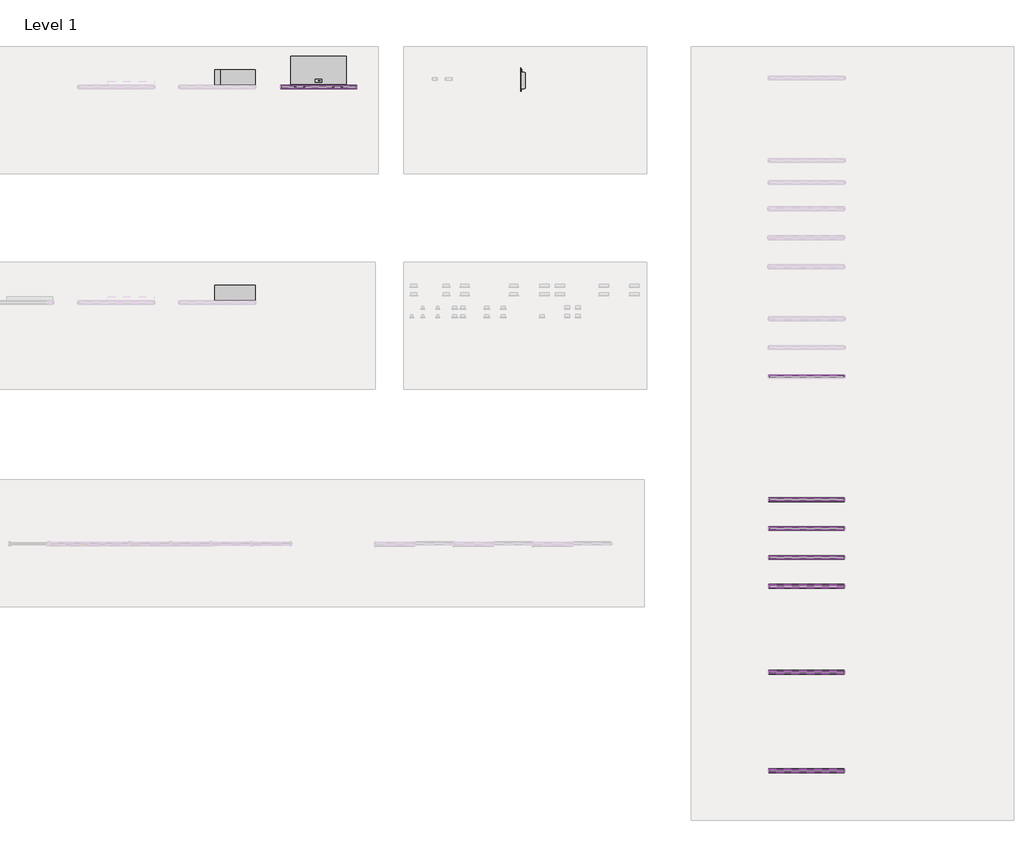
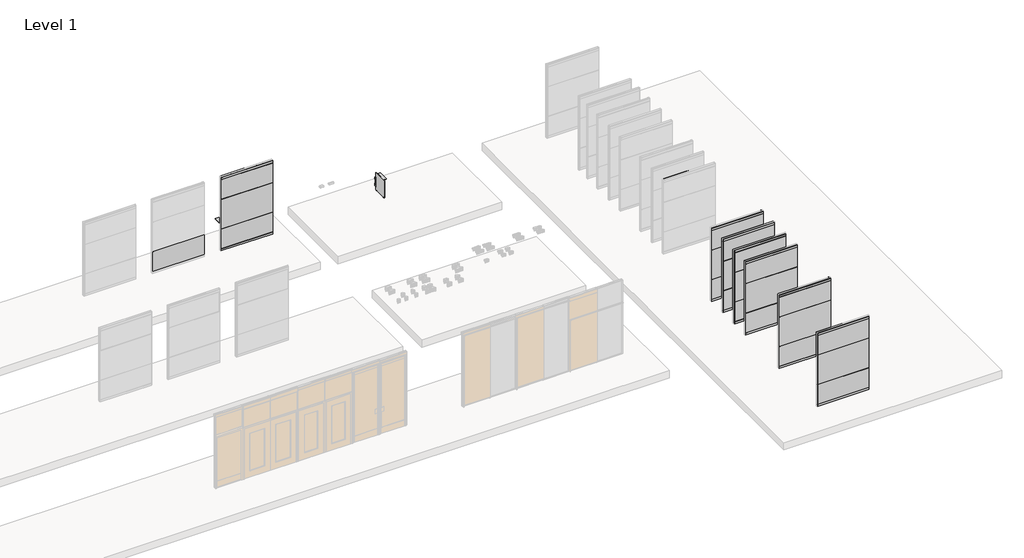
# One storey, part 9 of 13: 109 proxies, 6 furniture elements.
"""IFC4 building model written with IfcOpenShell, lengths in millimetres."""

from ifc_helpers import new_model, si_unit, origin, place, context, project, spatial, transform, mapped, element, save
from components import fascia_teknion_ceiling_and_base_ffb1_18eda79c, fascia_teknion_ceiling_and_base_ffb1_afe21305, frame_teknion_horizontal_rail_fkk_86cbbdfc, frame_teknion_landscape_vertical_post_b621eeab, level_i_45b542d7, level_i_5a75796b, level_i_a92b6f2e, level_ii_4f3a5f4c, level_ii_0c7391c9, level_iii_1ffc0a55, level_iii_bffd5232, furniture_96db114d, furniture_9f5f73cf, furniture_1d4756c6, furniture_db7c38db, furniture_d19da1b5

model = new_model("IFC4")

# Units and contexts
model_context = context("Model", 3, world=origin())
ifc_project = project(units=[si_unit("LENGTHUNIT", "METRE", prefix="MILLI")], contexts=[model_context])

# Site, building, storey
site = spatial("IfcSite", under=ifc_project)
building = spatial("IfcBuilding", under=site)
storey = spatial("IfcBuildingStorey", under=building, Name="Level 1", Elevation=0.0)

# Proxies
placement = place(None, origin())
fascia_teknion_ceiling_and_base_ffb1_shape = fascia_teknion_ceiling_and_base_ffb1_18eda79c(model_context)
element("IfcBuildingElementProxy", 1, Name="Fascia-Teknion-Ceiling_and_Base : FFB1", ObjectType="Fascia-Teknion-Ceiling_and_Base : FFB1", at=placement, inside=storey, context=model_context, shape_type="MappedRepresentation", body=[
    mapped(fascia_teknion_ceiling_and_base_ffb1_shape, transform((-5391.1661615, 22076.2689796, 15.875), x_axis=(1.0, 0.0, 0.0), y_axis=(0.0, 1.0, 0.0), z_axis=(0.0, 0.0, 1.0))),
])
element("IfcBuildingElementProxy", 2, Name="Fascia-Teknion-Ceiling_and_Base : FFB1", ObjectType="Fascia-Teknion-Ceiling_and_Base : FFB1", at=placement, inside=storey, context=model_context, shape_type="MappedRepresentation", body=[
    mapped(fascia_teknion_ceiling_and_base_ffb1_shape, transform((-5391.1661615, 22138.2449796, 15.875), x_axis=(-1.0, 0.0, 0.0), y_axis=(0.0, -1.0, 0.0), z_axis=(0.0, 0.0, 1.0))),
])
element("IfcBuildingElementProxy", 3, Name="Fascia-Teknion-Ceiling_and_Base : FFB1", ObjectType="Fascia-Teknion-Ceiling_and_Base : FFB1", at=placement, inside=storey, context=model_context, shape_type="MappedRepresentation", body=[
    mapped(fascia_teknion_ceiling_and_base_ffb1_shape, transform((7469.8447863, 11201.7742262, 15.875), x_axis=(1.0, 0.0, 0.0), y_axis=(0.0, 1.0, 0.0), z_axis=(0.0, 0.0, 1.0))),
])
element("IfcBuildingElementProxy", 4, Name="Fascia-Teknion-Ceiling_and_Base : FFB1", ObjectType="Fascia-Teknion-Ceiling_and_Base : FFB1", at=placement, inside=storey, context=model_context, shape_type="MappedRepresentation", body=[
    mapped(fascia_teknion_ceiling_and_base_ffb1_shape, transform((7469.8447863, 10439.7742262, 15.875), x_axis=(1.0, 0.0, 0.0), y_axis=(0.0, 1.0, 0.0), z_axis=(0.0, 0.0, 1.0))),
])
element("IfcBuildingElementProxy", 5, Name="Fascia-Teknion-Ceiling_and_Base : FFB1", ObjectType="Fascia-Teknion-Ceiling_and_Base : FFB1", at=placement, inside=storey, context=model_context, shape_type="MappedRepresentation", body=[
    mapped(fascia_teknion_ceiling_and_base_ffb1_shape, transform((7469.8447863, 9677.7742262, 15.875), x_axis=(1.0, 0.0, 0.0), y_axis=(0.0, 1.0, 0.0), z_axis=(0.0, 0.0, 1.0))),
])
element("IfcBuildingElementProxy", 6, Name="Fascia-Teknion-Ceiling_and_Base : FFB1", ObjectType="Fascia-Teknion-Ceiling_and_Base : FFB1", at=placement, inside=storey, context=model_context, shape_type="MappedRepresentation", body=[
    mapped(fascia_teknion_ceiling_and_base_ffb1_shape, transform((7469.8447863, 8915.7742262, 15.875), x_axis=(1.0, 0.0, 0.0), y_axis=(0.0, 1.0, 0.0), z_axis=(0.0, 0.0, 1.0))),
])
element("IfcBuildingElementProxy", 7, Name="Fascia-Teknion-Ceiling_and_Base : FFB1", ObjectType="Fascia-Teknion-Ceiling_and_Base : FFB1", at=placement, inside=storey, context=model_context, shape_type="MappedRepresentation", body=[
    mapped(fascia_teknion_ceiling_and_base_ffb1_shape, transform((7469.8447863, 6649.4734446, 15.875), x_axis=(1.0, 0.0, 0.0), y_axis=(0.0, 1.0, 0.0), z_axis=(0.0, 0.0, 1.0))),
])
element("IfcBuildingElementProxy", 8, Name="Fascia-Teknion-Ceiling_and_Base : FFB1", ObjectType="Fascia-Teknion-Ceiling_and_Base : FFB1", at=placement, inside=storey, context=model_context, shape_type="MappedRepresentation", body=[
    mapped(fascia_teknion_ceiling_and_base_ffb1_shape, transform((7469.8447863, 4056.2769609, 15.875), x_axis=(1.0, 0.0, 0.0), y_axis=(0.0, 1.0, 0.0), z_axis=(0.0, 0.0, 1.0))),
])
fascia_teknion_ceiling_and_base_ffb1_2_shape = fascia_teknion_ceiling_and_base_ffb1_afe21305(model_context)
element("IfcBuildingElementProxy", 9, Name="Fascia-Teknion-Ceiling_and_Base : FFB1", ObjectType="Fascia-Teknion-Ceiling_and_Base : FFB1", at=placement, inside=storey, context=model_context, shape_type="MappedRepresentation", body=[
    mapped(fascia_teknion_ceiling_and_base_ffb1_2_shape, transform((7469.8447863, 11263.7502262, 15.875), x_axis=(1.0, 0.0, 0.0), y_axis=(0.0, 1.0, 0.0), z_axis=(0.0, 0.0, 1.0))),
])
element("IfcBuildingElementProxy", 10, Name="Fascia-Teknion-Ceiling_and_Base : FFB1", ObjectType="Fascia-Teknion-Ceiling_and_Base : FFB1", at=placement, inside=storey, context=model_context, shape_type="MappedRepresentation", body=[
    mapped(fascia_teknion_ceiling_and_base_ffb1_2_shape, transform((7469.8447863, 10501.7502262, 15.875), x_axis=(1.0, 0.0, 0.0), y_axis=(0.0, 1.0, 0.0), z_axis=(0.0, 0.0, 1.0))),
])
element("IfcBuildingElementProxy", 11, Name="Fascia-Teknion-Ceiling_and_Base : FFB1", ObjectType="Fascia-Teknion-Ceiling_and_Base : FFB1", at=placement, inside=storey, context=model_context, shape_type="MappedRepresentation", body=[
    mapped(fascia_teknion_ceiling_and_base_ffb1_2_shape, transform((7469.8447863, 9739.7502262, 15.875), x_axis=(1.0, 0.0, 0.0), y_axis=(0.0, 1.0, 0.0), z_axis=(0.0, 0.0, 1.0))),
])
element("IfcBuildingElementProxy", 12, Name="Fascia-Teknion-Ceiling_and_Base : FFB1", ObjectType="Fascia-Teknion-Ceiling_and_Base : FFB1", at=placement, inside=storey, context=model_context, shape_type="MappedRepresentation", body=[
    mapped(fascia_teknion_ceiling_and_base_ffb1_2_shape, transform((7469.8447863, 8977.7502262, 15.875), x_axis=(1.0, 0.0, 0.0), y_axis=(0.0, 1.0, 0.0), z_axis=(0.0, 0.0, 1.0))),
])
element("IfcBuildingElementProxy", 13, Name="Fascia-Teknion-Ceiling_and_Base : FFB1", ObjectType="Fascia-Teknion-Ceiling_and_Base : FFB1", at=placement, inside=storey, context=model_context, shape_type="MappedRepresentation", body=[
    mapped(fascia_teknion_ceiling_and_base_ffb1_2_shape, transform((7469.8447863, 6711.4494446, 15.875), x_axis=(1.0, 0.0, 0.0), y_axis=(0.0, 1.0, 0.0), z_axis=(0.0, 0.0, 1.0))),
])
element("IfcBuildingElementProxy", 14, Name="Fascia-Teknion-Ceiling_and_Base : FFB1", ObjectType="Fascia-Teknion-Ceiling_and_Base : FFB1", at=placement, inside=storey, context=model_context, shape_type="MappedRepresentation", body=[
    mapped(fascia_teknion_ceiling_and_base_ffb1_2_shape, transform((7469.8447863, 4118.2529609, 15.875), x_axis=(1.0, 0.0, 0.0), y_axis=(0.0, 1.0, 0.0), z_axis=(0.0, 0.0, 1.0))),
])
element("IfcBuildingElementProxy", 15, Name="Fascia-Teknion-Ceiling_and_Base : FFC", ObjectType="Fascia-Teknion-Ceiling_and_Base : FFC", at=placement, inside=storey, context=model_context, shape_type="MappedRepresentation", body=[
    mapped(fascia_teknion_ceiling_and_base_ffb1_2_shape, transform((-5391.1661615, 22138.2449796, 2950.845), x_axis=(1.0, 0.0, 0.0), y_axis=(0.0, 1.0, 0.0), z_axis=(0.0, 0.0, 1.0))),
])
element("IfcBuildingElementProxy", 16, Name="Fascia-Teknion-Ceiling_and_Base : FFC", ObjectType="Fascia-Teknion-Ceiling_and_Base : FFC", at=placement, inside=storey, context=model_context, shape_type="MappedRepresentation", body=[
    mapped(fascia_teknion_ceiling_and_base_ffb1_2_shape, transform((7469.8447863, 14508.4566297, 2950.845), x_axis=(1.0, 0.0, 0.0), y_axis=(0.0, 1.0, 0.0), z_axis=(0.0, 0.0, 1.0))),
])
element("IfcBuildingElementProxy", 17, Name="Fascia-Teknion-Ceiling_and_Base : FFC", ObjectType="Fascia-Teknion-Ceiling_and_Base : FFC", at=placement, inside=storey, context=model_context, shape_type="MappedRepresentation", body=[
    mapped(fascia_teknion_ceiling_and_base_ffb1_2_shape, transform((7469.8447863, 11263.7502262, 2950.845), x_axis=(1.0, 0.0, 0.0), y_axis=(0.0, 1.0, 0.0), z_axis=(0.0, 0.0, 1.0))),
])
element("IfcBuildingElementProxy", 18, Name="Fascia-Teknion-Ceiling_and_Base : FFC", ObjectType="Fascia-Teknion-Ceiling_and_Base : FFC", at=placement, inside=storey, context=model_context, shape_type="MappedRepresentation", body=[
    mapped(fascia_teknion_ceiling_and_base_ffb1_2_shape, transform((7469.8447863, 10501.7502262, 2950.845), x_axis=(1.0, 0.0, 0.0), y_axis=(0.0, 1.0, 0.0), z_axis=(0.0, 0.0, 1.0))),
])
element("IfcBuildingElementProxy", 19, Name="Fascia-Teknion-Ceiling_and_Base : FFC", ObjectType="Fascia-Teknion-Ceiling_and_Base : FFC", at=placement, inside=storey, context=model_context, shape_type="MappedRepresentation", body=[
    mapped(fascia_teknion_ceiling_and_base_ffb1_2_shape, transform((7469.8447863, 9739.7502262, 2950.845), x_axis=(1.0, 0.0, 0.0), y_axis=(0.0, 1.0, 0.0), z_axis=(0.0, 0.0, 1.0))),
])
element("IfcBuildingElementProxy", 20, Name="Fascia-Teknion-Ceiling_and_Base : FFC", ObjectType="Fascia-Teknion-Ceiling_and_Base : FFC", at=placement, inside=storey, context=model_context, shape_type="MappedRepresentation", body=[
    mapped(fascia_teknion_ceiling_and_base_ffb1_2_shape, transform((7469.8447863, 8977.7502262, 2950.845), x_axis=(1.0, 0.0, 0.0), y_axis=(0.0, 1.0, 0.0), z_axis=(0.0, 0.0, 1.0))),
])
element("IfcBuildingElementProxy", 21, Name="Fascia-Teknion-Ceiling_and_Base : FFC", ObjectType="Fascia-Teknion-Ceiling_and_Base : FFC", at=placement, inside=storey, context=model_context, shape_type="MappedRepresentation", body=[
    mapped(fascia_teknion_ceiling_and_base_ffb1_2_shape, transform((7469.8447863, 6711.4494446, 2950.845), x_axis=(1.0, 0.0, 0.0), y_axis=(0.0, 1.0, 0.0), z_axis=(0.0, 0.0, 1.0))),
])
element("IfcBuildingElementProxy", 22, Name="Fascia-Teknion-Ceiling_and_Base : FFC", ObjectType="Fascia-Teknion-Ceiling_and_Base : FFC", at=placement, inside=storey, context=model_context, shape_type="MappedRepresentation", body=[
    mapped(fascia_teknion_ceiling_and_base_ffb1_2_shape, transform((7469.8447863, 4118.2529609, 2950.845), x_axis=(1.0, 0.0, 0.0), y_axis=(0.0, 1.0, 0.0), z_axis=(0.0, 0.0, 1.0))),
])
element("IfcBuildingElementProxy", 23, Name="Fascia-Teknion-Ceiling_and_Base : FFC", ObjectType="Fascia-Teknion-Ceiling_and_Base : FFC", at=placement, inside=storey, context=model_context, shape_type="MappedRepresentation", body=[
    mapped(fascia_teknion_ceiling_and_base_ffb1_shape, transform((-5391.1661615, 22076.2689796, 2950.845), x_axis=(1.0, 0.0, 0.0), y_axis=(0.0, 1.0, 0.0), z_axis=(0.0, 0.0, 1.0))),
])
element("IfcBuildingElementProxy", 24, Name="Fascia-Teknion-Ceiling_and_Base : FFC", ObjectType="Fascia-Teknion-Ceiling_and_Base : FFC", at=placement, inside=storey, context=model_context, shape_type="MappedRepresentation", body=[
    mapped(fascia_teknion_ceiling_and_base_ffb1_shape, transform((7469.8447863, 11201.7742262, 2950.845), x_axis=(1.0, 0.0, 0.0), y_axis=(0.0, 1.0, 0.0), z_axis=(0.0, 0.0, 1.0))),
])
element("IfcBuildingElementProxy", 25, Name="Fascia-Teknion-Ceiling_and_Base : FFC", ObjectType="Fascia-Teknion-Ceiling_and_Base : FFC", at=placement, inside=storey, context=model_context, shape_type="MappedRepresentation", body=[
    mapped(fascia_teknion_ceiling_and_base_ffb1_shape, transform((7469.8447863, 10439.7742262, 2950.845), x_axis=(1.0, 0.0, 0.0), y_axis=(0.0, 1.0, 0.0), z_axis=(0.0, 0.0, 1.0))),
])
element("IfcBuildingElementProxy", 26, Name="Fascia-Teknion-Ceiling_and_Base : FFC", ObjectType="Fascia-Teknion-Ceiling_and_Base : FFC", at=placement, inside=storey, context=model_context, shape_type="MappedRepresentation", body=[
    mapped(fascia_teknion_ceiling_and_base_ffb1_shape, transform((7469.8447863, 9677.7742262, 2950.845), x_axis=(1.0, 0.0, 0.0), y_axis=(0.0, 1.0, 0.0), z_axis=(0.0, 0.0, 1.0))),
])
element("IfcBuildingElementProxy", 27, Name="Fascia-Teknion-Ceiling_and_Base : FFC", ObjectType="Fascia-Teknion-Ceiling_and_Base : FFC", at=placement, inside=storey, context=model_context, shape_type="MappedRepresentation", body=[
    mapped(fascia_teknion_ceiling_and_base_ffb1_shape, transform((7469.8447863, 8915.7742262, 2950.845), x_axis=(1.0, 0.0, 0.0), y_axis=(0.0, 1.0, 0.0), z_axis=(0.0, 0.0, 1.0))),
])
element("IfcBuildingElementProxy", 28, Name="Fascia-Teknion-Ceiling_and_Base : FFC", ObjectType="Fascia-Teknion-Ceiling_and_Base : FFC", at=placement, inside=storey, context=model_context, shape_type="MappedRepresentation", body=[
    mapped(fascia_teknion_ceiling_and_base_ffb1_shape, transform((7469.8447863, 6649.4734446, 2950.845), x_axis=(1.0, 0.0, 0.0), y_axis=(0.0, 1.0, 0.0), z_axis=(0.0, 0.0, 1.0))),
])
element("IfcBuildingElementProxy", 29, Name="Fascia-Teknion-Ceiling_and_Base : FFC", ObjectType="Fascia-Teknion-Ceiling_and_Base : FFC", at=placement, inside=storey, context=model_context, shape_type="MappedRepresentation", body=[
    mapped(fascia_teknion_ceiling_and_base_ffb1_shape, transform((7469.8447863, 4056.2769609, 2950.845), x_axis=(1.0, 0.0, 0.0), y_axis=(0.0, 1.0, 0.0), z_axis=(0.0, 0.0, 1.0))),
])
frame_teknion_horizontal_rail_fkk_shape = frame_teknion_horizontal_rail_fkk_86cbbdfc(model_context)
element("IfcBuildingElementProxy", 30, Name="Frame-Teknion-Horizontal_Rail : FKK", ObjectType="Frame-Teknion-Horizontal_Rail : FKK", at=placement, inside=storey, context=model_context, shape_type="MappedRepresentation", body=[
    mapped(frame_teknion_horizontal_rail_fkk_shape, transform((-5391.1661615, 22107.2569796, 100.4514438), x_axis=(1.0, 0.0, 0.0), y_axis=(0.0, 1.0, 0.0), z_axis=(0.0, 0.0, 1.0))),
])
element("IfcBuildingElementProxy", 31, Name="Frame-Teknion-Horizontal_Rail : FKK", ObjectType="Frame-Teknion-Horizontal_Rail : FKK", at=placement, inside=storey, context=model_context, shape_type="MappedRepresentation", body=[
    mapped(frame_teknion_horizontal_rail_fkk_shape, transform((-5391.1661615, 22107.2569796, 2947.5374437), x_axis=(1.0, 0.0, 0.0), y_axis=(0.0, 1.0, 0.0), z_axis=(0.0, 0.0, 1.0))),
])
element("IfcBuildingElementProxy", 32, Name="Frame-Teknion-Horizontal_Rail : FKK", ObjectType="Frame-Teknion-Horizontal_Rail : FKK", at=placement, inside=storey, context=model_context, shape_type="MappedRepresentation", body=[
    mapped(frame_teknion_horizontal_rail_fkk_shape, transform((7469.8447863, 14477.4686297, 100.4514438), x_axis=(1.0, 0.0, 0.0), y_axis=(0.0, 1.0, 0.0), z_axis=(0.0, 0.0, 1.0))),
])
element("IfcBuildingElementProxy", 33, Name="Frame-Teknion-Horizontal_Rail : FKK", ObjectType="Frame-Teknion-Horizontal_Rail : FKK", at=placement, inside=storey, context=model_context, shape_type="MappedRepresentation", body=[
    mapped(frame_teknion_horizontal_rail_fkk_shape, transform((7469.8447863, 14477.4686297, 2947.5374437), x_axis=(1.0, 0.0, 0.0), y_axis=(0.0, 1.0, 0.0), z_axis=(0.0, 0.0, 1.0))),
])
element("IfcBuildingElementProxy", 34, Name="Frame-Teknion-Horizontal_Rail : FKK", ObjectType="Frame-Teknion-Horizontal_Rail : FKK", at=placement, inside=storey, context=model_context, shape_type="MappedRepresentation", body=[
    mapped(frame_teknion_horizontal_rail_fkk_shape, transform((7469.8447863, 11232.7622262, 100.4514438), x_axis=(1.0, 0.0, 0.0), y_axis=(0.0, 1.0, 0.0), z_axis=(0.0, 0.0, 1.0))),
])
element("IfcBuildingElementProxy", 35, Name="Frame-Teknion-Horizontal_Rail : FKK", ObjectType="Frame-Teknion-Horizontal_Rail : FKK", at=placement, inside=storey, context=model_context, shape_type="MappedRepresentation", body=[
    mapped(frame_teknion_horizontal_rail_fkk_shape, transform((7469.8447863, 11232.7622262, 2947.5374437), x_axis=(1.0, 0.0, 0.0), y_axis=(0.0, 1.0, 0.0), z_axis=(0.0, 0.0, 1.0))),
])
element("IfcBuildingElementProxy", 36, Name="Frame-Teknion-Horizontal_Rail : FKK", ObjectType="Frame-Teknion-Horizontal_Rail : FKK", at=placement, inside=storey, context=model_context, shape_type="MappedRepresentation", body=[
    mapped(frame_teknion_horizontal_rail_fkk_shape, transform((7469.8447863, 10470.7622262, 100.4514438), x_axis=(1.0, 0.0, 0.0), y_axis=(0.0, 1.0, 0.0), z_axis=(0.0, 0.0, 1.0))),
])
element("IfcBuildingElementProxy", 37, Name="Frame-Teknion-Horizontal_Rail : FKK", ObjectType="Frame-Teknion-Horizontal_Rail : FKK", at=placement, inside=storey, context=model_context, shape_type="MappedRepresentation", body=[
    mapped(frame_teknion_horizontal_rail_fkk_shape, transform((7469.8447863, 10470.7622262, 2947.5374437), x_axis=(1.0, 0.0, 0.0), y_axis=(0.0, 1.0, 0.0), z_axis=(0.0, 0.0, 1.0))),
])
element("IfcBuildingElementProxy", 38, Name="Frame-Teknion-Horizontal_Rail : FKK", ObjectType="Frame-Teknion-Horizontal_Rail : FKK", at=placement, inside=storey, context=model_context, shape_type="MappedRepresentation", body=[
    mapped(frame_teknion_horizontal_rail_fkk_shape, transform((7469.8447863, 9708.7622262, 100.4514438), x_axis=(1.0, 0.0, 0.0), y_axis=(0.0, 1.0, 0.0), z_axis=(0.0, 0.0, 1.0))),
])
element("IfcBuildingElementProxy", 39, Name="Frame-Teknion-Horizontal_Rail : FKK", ObjectType="Frame-Teknion-Horizontal_Rail : FKK", at=placement, inside=storey, context=model_context, shape_type="MappedRepresentation", body=[
    mapped(frame_teknion_horizontal_rail_fkk_shape, transform((7469.8447863, 9708.7622262, 2947.5374437), x_axis=(1.0, 0.0, 0.0), y_axis=(0.0, 1.0, 0.0), z_axis=(0.0, 0.0, 1.0))),
])
element("IfcBuildingElementProxy", 40, Name="Frame-Teknion-Horizontal_Rail : FKK", ObjectType="Frame-Teknion-Horizontal_Rail : FKK", at=placement, inside=storey, context=model_context, shape_type="MappedRepresentation", body=[
    mapped(frame_teknion_horizontal_rail_fkk_shape, transform((7469.8447863, 8946.7622262, 100.4514438), x_axis=(1.0, 0.0, 0.0), y_axis=(0.0, 1.0, 0.0), z_axis=(0.0, 0.0, 1.0))),
])
element("IfcBuildingElementProxy", 41, Name="Frame-Teknion-Horizontal_Rail : FKK", ObjectType="Frame-Teknion-Horizontal_Rail : FKK", at=placement, inside=storey, context=model_context, shape_type="MappedRepresentation", body=[
    mapped(frame_teknion_horizontal_rail_fkk_shape, transform((7469.8447863, 8946.7622262, 2947.5374437), x_axis=(1.0, 0.0, 0.0), y_axis=(0.0, 1.0, 0.0), z_axis=(0.0, 0.0, 1.0))),
])
element("IfcBuildingElementProxy", 42, Name="Frame-Teknion-Horizontal_Rail : FKK", ObjectType="Frame-Teknion-Horizontal_Rail : FKK", at=placement, inside=storey, context=model_context, shape_type="MappedRepresentation", body=[
    mapped(frame_teknion_horizontal_rail_fkk_shape, transform((7469.8447863, 6680.4614446, 100.4514438), x_axis=(1.0, 0.0, 0.0), y_axis=(0.0, 1.0, 0.0), z_axis=(0.0, 0.0, 1.0))),
])
element("IfcBuildingElementProxy", 43, Name="Frame-Teknion-Horizontal_Rail : FKK", ObjectType="Frame-Teknion-Horizontal_Rail : FKK", at=placement, inside=storey, context=model_context, shape_type="MappedRepresentation", body=[
    mapped(frame_teknion_horizontal_rail_fkk_shape, transform((7469.8447863, 6680.4614446, 2947.5374437), x_axis=(1.0, 0.0, 0.0), y_axis=(0.0, 1.0, 0.0), z_axis=(0.0, 0.0, 1.0))),
])
element("IfcBuildingElementProxy", 44, Name="Frame-Teknion-Horizontal_Rail : FKK", ObjectType="Frame-Teknion-Horizontal_Rail : FKK", at=placement, inside=storey, context=model_context, shape_type="MappedRepresentation", body=[
    mapped(frame_teknion_horizontal_rail_fkk_shape, transform((7469.8447863, 4087.2649609, 100.4514438), x_axis=(1.0, 0.0, 0.0), y_axis=(0.0, 1.0, 0.0), z_axis=(0.0, 0.0, 1.0))),
])
element("IfcBuildingElementProxy", 45, Name="Frame-Teknion-Horizontal_Rail : FKK", ObjectType="Frame-Teknion-Horizontal_Rail : FKK", at=placement, inside=storey, context=model_context, shape_type="MappedRepresentation", body=[
    mapped(frame_teknion_horizontal_rail_fkk_shape, transform((7469.8447863, 4087.2649609, 2947.5374437), x_axis=(1.0, 0.0, 0.0), y_axis=(0.0, 1.0, 0.0), z_axis=(0.0, 0.0, 1.0))),
])
element("IfcBuildingElementProxy", 46, Name="Frame-Teknion-Landscape_Horizontal_Rail : FLKH", ObjectType="Frame-Teknion-Landscape_Horizontal_Rail : FLKH", at=placement, inside=storey, context=model_context, shape_type="MappedRepresentation", body=[
    mapped(frame_teknion_horizontal_rail_fkk_shape, transform((-5391.1661615, 22107.2569796, 917.575), x_axis=(1.0, 0.0, 0.0), y_axis=(0.0, 1.0, 0.0), z_axis=(0.0, 0.0, 1.0))),
])
element("IfcBuildingElementProxy", 47, Name="Frame-Teknion-Landscape_Horizontal_Rail : FLKH", ObjectType="Frame-Teknion-Landscape_Horizontal_Rail : FLKH", at=placement, inside=storey, context=model_context, shape_type="MappedRepresentation", body=[
    mapped(frame_teknion_horizontal_rail_fkk_shape, transform((-5391.1661615, 22107.2569796, 2136.775), x_axis=(1.0, 0.0, 0.0), y_axis=(0.0, 1.0, 0.0), z_axis=(0.0, 0.0, 1.0))),
])
element("IfcBuildingElementProxy", 48, Name="Frame-Teknion-Landscape_Horizontal_Rail : FLKH", ObjectType="Frame-Teknion-Landscape_Horizontal_Rail : FLKH", at=placement, inside=storey, context=model_context, shape_type="MappedRepresentation", body=[
    mapped(frame_teknion_horizontal_rail_fkk_shape, transform((7469.8447863, 14477.4686297, 917.575), x_axis=(1.0, 0.0, 0.0), y_axis=(0.0, 1.0, 0.0), z_axis=(0.0, 0.0, 1.0))),
])
element("IfcBuildingElementProxy", 49, Name="Frame-Teknion-Landscape_Horizontal_Rail : FLKH", ObjectType="Frame-Teknion-Landscape_Horizontal_Rail : FLKH", at=placement, inside=storey, context=model_context, shape_type="MappedRepresentation", body=[
    mapped(frame_teknion_horizontal_rail_fkk_shape, transform((7469.8447863, 14477.4686297, 2136.775), x_axis=(1.0, 0.0, 0.0), y_axis=(0.0, 1.0, 0.0), z_axis=(0.0, 0.0, 1.0))),
])
element("IfcBuildingElementProxy", 50, Name="Frame-Teknion-Landscape_Horizontal_Rail : FLKH", ObjectType="Frame-Teknion-Landscape_Horizontal_Rail : FLKH", at=placement, inside=storey, context=model_context, shape_type="MappedRepresentation", body=[
    mapped(frame_teknion_horizontal_rail_fkk_shape, transform((7469.8447863, 11232.7622262, 917.575), x_axis=(1.0, 0.0, 0.0), y_axis=(0.0, 1.0, 0.0), z_axis=(0.0, 0.0, 1.0))),
])
element("IfcBuildingElementProxy", 51, Name="Frame-Teknion-Landscape_Horizontal_Rail : FLKH", ObjectType="Frame-Teknion-Landscape_Horizontal_Rail : FLKH", at=placement, inside=storey, context=model_context, shape_type="MappedRepresentation", body=[
    mapped(frame_teknion_horizontal_rail_fkk_shape, transform((7469.8447863, 11232.7622262, 2136.775), x_axis=(1.0, 0.0, 0.0), y_axis=(0.0, 1.0, 0.0), z_axis=(0.0, 0.0, 1.0))),
])
element("IfcBuildingElementProxy", 52, Name="Frame-Teknion-Landscape_Horizontal_Rail : FLKH", ObjectType="Frame-Teknion-Landscape_Horizontal_Rail : FLKH", at=placement, inside=storey, context=model_context, shape_type="MappedRepresentation", body=[
    mapped(frame_teknion_horizontal_rail_fkk_shape, transform((7469.8447863, 10470.7622262, 917.575), x_axis=(1.0, 0.0, 0.0), y_axis=(0.0, 1.0, 0.0), z_axis=(0.0, 0.0, 1.0))),
])
element("IfcBuildingElementProxy", 53, Name="Frame-Teknion-Landscape_Horizontal_Rail : FLKH", ObjectType="Frame-Teknion-Landscape_Horizontal_Rail : FLKH", at=placement, inside=storey, context=model_context, shape_type="MappedRepresentation", body=[
    mapped(frame_teknion_horizontal_rail_fkk_shape, transform((7469.8447863, 10470.7622262, 2136.775), x_axis=(1.0, 0.0, 0.0), y_axis=(0.0, 1.0, 0.0), z_axis=(0.0, 0.0, 1.0))),
])
element("IfcBuildingElementProxy", 54, Name="Frame-Teknion-Landscape_Horizontal_Rail : FLKH", ObjectType="Frame-Teknion-Landscape_Horizontal_Rail : FLKH", at=placement, inside=storey, context=model_context, shape_type="MappedRepresentation", body=[
    mapped(frame_teknion_horizontal_rail_fkk_shape, transform((7469.8447863, 9708.7622262, 917.575), x_axis=(1.0, 0.0, 0.0), y_axis=(0.0, 1.0, 0.0), z_axis=(0.0, 0.0, 1.0))),
])
element("IfcBuildingElementProxy", 55, Name="Frame-Teknion-Landscape_Horizontal_Rail : FLKH", ObjectType="Frame-Teknion-Landscape_Horizontal_Rail : FLKH", at=placement, inside=storey, context=model_context, shape_type="MappedRepresentation", body=[
    mapped(frame_teknion_horizontal_rail_fkk_shape, transform((7469.8447863, 9708.7622262, 2136.775), x_axis=(1.0, 0.0, 0.0), y_axis=(0.0, 1.0, 0.0), z_axis=(0.0, 0.0, 1.0))),
])
element("IfcBuildingElementProxy", 56, Name="Frame-Teknion-Landscape_Horizontal_Rail : FLKH", ObjectType="Frame-Teknion-Landscape_Horizontal_Rail : FLKH", at=placement, inside=storey, context=model_context, shape_type="MappedRepresentation", body=[
    mapped(frame_teknion_horizontal_rail_fkk_shape, transform((7469.8447863, 8946.7622262, 917.575), x_axis=(1.0, 0.0, 0.0), y_axis=(0.0, 1.0, 0.0), z_axis=(0.0, 0.0, 1.0))),
])
element("IfcBuildingElementProxy", 57, Name="Frame-Teknion-Landscape_Horizontal_Rail : FLKH", ObjectType="Frame-Teknion-Landscape_Horizontal_Rail : FLKH", at=placement, inside=storey, context=model_context, shape_type="MappedRepresentation", body=[
    mapped(frame_teknion_horizontal_rail_fkk_shape, transform((7469.8447863, 8946.7622262, 2136.775), x_axis=(1.0, 0.0, 0.0), y_axis=(0.0, 1.0, 0.0), z_axis=(0.0, 0.0, 1.0))),
])
element("IfcBuildingElementProxy", 58, Name="Frame-Teknion-Landscape_Horizontal_Rail : FLKH", ObjectType="Frame-Teknion-Landscape_Horizontal_Rail : FLKH", at=placement, inside=storey, context=model_context, shape_type="MappedRepresentation", body=[
    mapped(frame_teknion_horizontal_rail_fkk_shape, transform((7469.8447863, 6680.4614446, 917.575), x_axis=(1.0, 0.0, 0.0), y_axis=(0.0, 1.0, 0.0), z_axis=(0.0, 0.0, 1.0))),
])
element("IfcBuildingElementProxy", 59, Name="Frame-Teknion-Landscape_Horizontal_Rail : FLKH", ObjectType="Frame-Teknion-Landscape_Horizontal_Rail : FLKH", at=placement, inside=storey, context=model_context, shape_type="MappedRepresentation", body=[
    mapped(frame_teknion_horizontal_rail_fkk_shape, transform((7469.8447863, 6680.4614446, 2136.775), x_axis=(1.0, 0.0, 0.0), y_axis=(0.0, 1.0, 0.0), z_axis=(0.0, 0.0, 1.0))),
])
element("IfcBuildingElementProxy", 60, Name="Frame-Teknion-Landscape_Horizontal_Rail : FLKH", ObjectType="Frame-Teknion-Landscape_Horizontal_Rail : FLKH", at=placement, inside=storey, context=model_context, shape_type="MappedRepresentation", body=[
    mapped(frame_teknion_horizontal_rail_fkk_shape, transform((7469.8447863, 4087.2649609, 917.575), x_axis=(1.0, 0.0, 0.0), y_axis=(0.0, 1.0, 0.0), z_axis=(0.0, 0.0, 1.0))),
])
element("IfcBuildingElementProxy", 61, Name="Frame-Teknion-Landscape_Horizontal_Rail : FLKH", ObjectType="Frame-Teknion-Landscape_Horizontal_Rail : FLKH", at=placement, inside=storey, context=model_context, shape_type="MappedRepresentation", body=[
    mapped(frame_teknion_horizontal_rail_fkk_shape, transform((7469.8447863, 4087.2649609, 2136.775), x_axis=(1.0, 0.0, 0.0), y_axis=(0.0, 1.0, 0.0), z_axis=(0.0, 0.0, 1.0))),
])
frame_teknion_landscape_vertical_post_shape = frame_teknion_landscape_vertical_post_b621eeab(model_context)
element("IfcBuildingElementProxy", 62, Name="Frame-Teknion-Landscape_Vertical_Post : FLKV", ObjectType="Frame-Teknion-Landscape_Vertical_Post : FLKV", at=placement, inside=storey, context=model_context, shape_type="MappedRepresentation", body=[
    mapped(frame_teknion_landscape_vertical_post_shape, transform((-4779.9913615, 22107.2569796, 15.875), x_axis=(1.0000000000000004, 0.0, 0.0), y_axis=(0.0, 1.0000000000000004, 0.0), z_axis=(0.0, 0.0, 1.0))),
])
element("IfcBuildingElementProxy", 63, Name="Frame-Teknion-Landscape_Vertical_Post : FLKV", ObjectType="Frame-Teknion-Landscape_Vertical_Post : FLKV", at=placement, inside=storey, context=model_context, shape_type="MappedRepresentation", body=[
    mapped(frame_teknion_landscape_vertical_post_shape, transform((-5008.5913615, 22107.2569796, 15.875), x_axis=(1.0000000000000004, 0.0, 0.0), y_axis=(0.0, 1.0000000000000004, 0.0), z_axis=(0.0, 0.0, 1.0))),
])
element("IfcBuildingElementProxy", 64, Name="Frame-Teknion-Landscape_Vertical_Post : FLKV", ObjectType="Frame-Teknion-Landscape_Vertical_Post : FLKV", at=placement, inside=storey, context=model_context, shape_type="MappedRepresentation", body=[
    mapped(frame_teknion_landscape_vertical_post_shape, transform((-5773.7409615, 22107.2569796, 15.875), x_axis=(1.0000000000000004, 0.0, 0.0), y_axis=(0.0, 1.0000000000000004, 0.0), z_axis=(0.0, 0.0, 1.0))),
])
element("IfcBuildingElementProxy", 65, Name="Frame-Teknion-Landscape_Vertical_Post : FLKV", ObjectType="Frame-Teknion-Landscape_Vertical_Post : FLKV", at=placement, inside=storey, context=model_context, shape_type="MappedRepresentation", body=[
    mapped(frame_teknion_landscape_vertical_post_shape, transform((-6002.3409615, 22107.2569796, 15.875), x_axis=(1.0000000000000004, 0.0, 0.0), y_axis=(0.0, 1.0000000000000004, 0.0), z_axis=(0.0, 0.0, 1.0))),
])
level_i_shape = level_i_45b542d7(model_context)
element("IfcBuildingElementProxy", 66, Name="Panel-Fascia-Teknion-Altos-Landscape : Level I", ObjectType="Panel-Fascia-Teknion-Altos-Landscape : Level I", at=placement, inside=storey, context=model_context, shape_type="MappedRepresentation", body=[
    mapped(level_i_shape, transform((7469.8447863, 11273.2752262, 100.457), x_axis=(1.0, 0.0, 0.0), y_axis=(0.0, 1.0, 0.0), z_axis=(0.0, 0.0, 1.0))),
])
element("IfcBuildingElementProxy", 67, Name="Panel-Fascia-Teknion-Altos-Landscape : Level I", ObjectType="Panel-Fascia-Teknion-Altos-Landscape : Level I", at=placement, inside=storey, context=model_context, shape_type="MappedRepresentation", body=[
    mapped(level_i_shape, transform((7469.8447863, 10511.2752262, 100.457), x_axis=(1.0, 0.0, 0.0), y_axis=(0.0, 1.0, 0.0), z_axis=(0.0, 0.0, 1.0))),
])
element("IfcBuildingElementProxy", 68, Name="Panel-Fascia-Teknion-Altos-Landscape : Level I", ObjectType="Panel-Fascia-Teknion-Altos-Landscape : Level I", at=placement, inside=storey, context=model_context, shape_type="MappedRepresentation", body=[
    mapped(level_i_shape, transform((7469.8447863, 9749.2752262, 100.457), x_axis=(1.0, 0.0, 0.0), y_axis=(0.0, 1.0, 0.0), z_axis=(0.0, 0.0, 1.0))),
])
element("IfcBuildingElementProxy", 69, Name="Panel-Fascia-Teknion-Altos-Landscape : Level I", ObjectType="Panel-Fascia-Teknion-Altos-Landscape : Level I", at=placement, inside=storey, context=model_context, shape_type="MappedRepresentation", body=[
    mapped(level_i_shape, transform((7469.8447863, 8987.2752262, 100.457), x_axis=(1.0, 0.0, 0.0), y_axis=(0.0, 1.0, 0.0), z_axis=(0.0, 0.0, 1.0))),
])
element("IfcBuildingElementProxy", 70, Name="Panel-Fascia-Teknion-Altos-Landscape : Level I", ObjectType="Panel-Fascia-Teknion-Altos-Landscape : Level I", at=placement, inside=storey, context=model_context, shape_type="MappedRepresentation", body=[
    mapped(level_i_shape, transform((7469.8447863, 6720.9744446, 100.457), x_axis=(1.0, 0.0, 0.0), y_axis=(0.0, 1.0, 0.0), z_axis=(0.0, 0.0, 1.0))),
])
element("IfcBuildingElementProxy", 71, Name="Panel-Fascia-Teknion-Altos-Landscape : Level I", ObjectType="Panel-Fascia-Teknion-Altos-Landscape : Level I", at=placement, inside=storey, context=model_context, shape_type="MappedRepresentation", body=[
    mapped(level_i_shape, transform((7469.8447863, 4127.7779609, 100.457), x_axis=(1.0, 0.0, 0.0), y_axis=(0.0, 1.0, 0.0), z_axis=(0.0, 0.0, 1.0))),
])
level_i_2_shape = level_i_5a75796b(model_context)
element("IfcBuildingElementProxy", 72, Name="Panel-Fascia-Teknion-Altos-Landscape : Level I", ObjectType="Panel-Fascia-Teknion-Altos-Landscape : Level I", at=placement, inside=storey, context=model_context, shape_type="MappedRepresentation", body=[
    mapped(level_i_2_shape, transform((-8058.1661615, 22066.7439796, 100.457), x_axis=(1.0, 0.0, 0.0), y_axis=(0.0, 1.0, 0.0), z_axis=(0.0, 0.0, 1.0))),
])
element("IfcBuildingElementProxy", 73, Name="Panel-Fascia-Teknion-Altos-Landscape : Level I", ObjectType="Panel-Fascia-Teknion-Altos-Landscape : Level I", at=placement, inside=storey, context=model_context, shape_type="MappedRepresentation", body=[
    mapped(level_i_2_shape, transform((-5391.1661615, 22066.7439796, 100.457), x_axis=(1.0, 0.0, 0.0), y_axis=(0.0, 1.0, 0.0), z_axis=(0.0, 0.0, 1.0))),
])
element("IfcBuildingElementProxy", 74, Name="Panel-Fascia-Teknion-Altos-Landscape : Level I", ObjectType="Panel-Fascia-Teknion-Altos-Landscape : Level I", at=placement, inside=storey, context=model_context, shape_type="MappedRepresentation", body=[
    mapped(level_i_2_shape, transform((7469.8447863, 11192.2492262, 100.457), x_axis=(1.0, 0.0, 0.0), y_axis=(0.0, 1.0, 0.0), z_axis=(0.0, 0.0, 1.0))),
])
element("IfcBuildingElementProxy", 75, Name="Panel-Fascia-Teknion-Altos-Landscape : Level I", ObjectType="Panel-Fascia-Teknion-Altos-Landscape : Level I", at=placement, inside=storey, context=model_context, shape_type="MappedRepresentation", body=[
    mapped(level_i_2_shape, transform((7469.8447863, 10430.2492262, 100.457), x_axis=(1.0, 0.0, 0.0), y_axis=(0.0, 1.0, 0.0), z_axis=(0.0, 0.0, 1.0))),
])
element("IfcBuildingElementProxy", 76, Name="Panel-Fascia-Teknion-Altos-Landscape : Level I", ObjectType="Panel-Fascia-Teknion-Altos-Landscape : Level I", at=placement, inside=storey, context=model_context, shape_type="MappedRepresentation", body=[
    mapped(level_i_2_shape, transform((7469.8447863, 9668.2492262, 100.457), x_axis=(1.0, 0.0, 0.0), y_axis=(0.0, 1.0, 0.0), z_axis=(0.0, 0.0, 1.0))),
])
element("IfcBuildingElementProxy", 77, Name="Panel-Fascia-Teknion-Altos-Landscape : Level I", ObjectType="Panel-Fascia-Teknion-Altos-Landscape : Level I", at=placement, inside=storey, context=model_context, shape_type="MappedRepresentation", body=[
    mapped(level_i_2_shape, transform((7469.8447863, 8906.2492262, 100.457), x_axis=(1.0, 0.0, 0.0), y_axis=(0.0, 1.0, 0.0), z_axis=(0.0, 0.0, 1.0))),
])
element("IfcBuildingElementProxy", 78, Name="Panel-Fascia-Teknion-Altos-Landscape : Level I", ObjectType="Panel-Fascia-Teknion-Altos-Landscape : Level I", at=placement, inside=storey, context=model_context, shape_type="MappedRepresentation", body=[
    mapped(level_i_2_shape, transform((7469.8447863, 6639.9484446, 100.457), x_axis=(1.0, 0.0, 0.0), y_axis=(0.0, 1.0, 0.0), z_axis=(0.0, 0.0, 1.0))),
])
element("IfcBuildingElementProxy", 79, Name="Panel-Fascia-Teknion-Altos-Landscape : Level I", ObjectType="Panel-Fascia-Teknion-Altos-Landscape : Level I", at=placement, inside=storey, context=model_context, shape_type="MappedRepresentation", body=[
    mapped(level_i_2_shape, transform((7469.8447863, 4046.7519609, 100.457), x_axis=(1.0, 0.0, 0.0), y_axis=(0.0, 1.0, 0.0), z_axis=(0.0, 0.0, 1.0))),
])
level_i_3_shape = level_i_a92b6f2e(model_context)
element("IfcBuildingElementProxy", 80, Name="Panel-Fascia-Teknion-Altos-Landscape_Desk : Level I", ObjectType="Panel-Fascia-Teknion-Altos-Landscape_Desk : Level I", at=placement, inside=storey, context=model_context, shape_type="MappedRepresentation", body=[
    mapped(level_i_3_shape, transform((-5391.1661615, 22147.7699796, 100.457), x_axis=(-1.0, 0.0, 0.0), y_axis=(0.0, -1.0, 0.0), z_axis=(0.0, 0.0, 1.0))),
])
level_ii_shape = level_ii_4f3a5f4c(model_context)
element("IfcBuildingElementProxy", 81, Name="Panel-Fascia-Teknion-Altos-Landscape : Level II", ObjectType="Panel-Fascia-Teknion-Altos-Landscape : Level II", at=placement, inside=storey, context=model_context, shape_type="MappedRepresentation", body=[
    mapped(level_ii_shape, transform((-5391.1661615, 22066.7439796, 917.575), x_axis=(1.0, 0.0, 0.0), y_axis=(0.0, 1.0, 0.0), z_axis=(0.0, 0.0, 1.0))),
])
element("IfcBuildingElementProxy", 82, Name="Panel-Fascia-Teknion-Altos-Landscape : Level II", ObjectType="Panel-Fascia-Teknion-Altos-Landscape : Level II", at=placement, inside=storey, context=model_context, shape_type="MappedRepresentation", body=[
    mapped(level_ii_shape, transform((7469.8447863, 11192.2492262, 917.575), x_axis=(1.0, 0.0, 0.0), y_axis=(0.0, 1.0, 0.0), z_axis=(0.0, 0.0, 1.0))),
])
element("IfcBuildingElementProxy", 83, Name="Panel-Fascia-Teknion-Altos-Landscape : Level II", ObjectType="Panel-Fascia-Teknion-Altos-Landscape : Level II", at=placement, inside=storey, context=model_context, shape_type="MappedRepresentation", body=[
    mapped(level_ii_shape, transform((7469.8447863, 10430.2492262, 917.575), x_axis=(1.0, 0.0, 0.0), y_axis=(0.0, 1.0, 0.0), z_axis=(0.0, 0.0, 1.0))),
])
element("IfcBuildingElementProxy", 84, Name="Panel-Fascia-Teknion-Altos-Landscape : Level II", ObjectType="Panel-Fascia-Teknion-Altos-Landscape : Level II", at=placement, inside=storey, context=model_context, shape_type="MappedRepresentation", body=[
    mapped(level_ii_shape, transform((7469.8447863, 9668.2492262, 917.575), x_axis=(1.0, 0.0, 0.0), y_axis=(0.0, 1.0, 0.0), z_axis=(0.0, 0.0, 1.0))),
])
element("IfcBuildingElementProxy", 85, Name="Panel-Fascia-Teknion-Altos-Landscape : Level II", ObjectType="Panel-Fascia-Teknion-Altos-Landscape : Level II", at=placement, inside=storey, context=model_context, shape_type="MappedRepresentation", body=[
    mapped(level_ii_shape, transform((7469.8447863, 8906.2492262, 917.575), x_axis=(1.0, 0.0, 0.0), y_axis=(0.0, 1.0, 0.0), z_axis=(0.0, 0.0, 1.0))),
])
element("IfcBuildingElementProxy", 86, Name="Panel-Fascia-Teknion-Altos-Landscape : Level II", ObjectType="Panel-Fascia-Teknion-Altos-Landscape : Level II", at=placement, inside=storey, context=model_context, shape_type="MappedRepresentation", body=[
    mapped(level_ii_shape, transform((7469.8447863, 6639.9484446, 917.575), x_axis=(1.0, 0.0, 0.0), y_axis=(0.0, 1.0, 0.0), z_axis=(0.0, 0.0, 1.0))),
])
element("IfcBuildingElementProxy", 87, Name="Panel-Fascia-Teknion-Altos-Landscape : Level II", ObjectType="Panel-Fascia-Teknion-Altos-Landscape : Level II", at=placement, inside=storey, context=model_context, shape_type="MappedRepresentation", body=[
    mapped(level_ii_shape, transform((7469.8447863, 4046.7519609, 917.575), x_axis=(1.0, 0.0, 0.0), y_axis=(0.0, 1.0, 0.0), z_axis=(0.0, 0.0, 1.0))),
])
level_ii_2_shape = level_ii_0c7391c9(model_context)
element("IfcBuildingElementProxy", 88, Name="Panel-Fascia-Teknion-Altos-Landscape : Level II", ObjectType="Panel-Fascia-Teknion-Altos-Landscape : Level II", at=placement, inside=storey, context=model_context, shape_type="MappedRepresentation", body=[
    mapped(level_ii_2_shape, transform((-5391.1661615, 22147.7699796, 917.575), x_axis=(1.0, 0.0, 0.0), y_axis=(0.0, 1.0, 0.0), z_axis=(0.0, 0.0, 1.0))),
])
element("IfcBuildingElementProxy", 89, Name="Panel-Fascia-Teknion-Altos-Landscape : Level II", ObjectType="Panel-Fascia-Teknion-Altos-Landscape : Level II", at=placement, inside=storey, context=model_context, shape_type="MappedRepresentation", body=[
    mapped(level_ii_2_shape, transform((7469.8447863, 11273.2752262, 917.575), x_axis=(1.0, 0.0, 0.0), y_axis=(0.0, 1.0, 0.0), z_axis=(0.0, 0.0, 1.0))),
])
element("IfcBuildingElementProxy", 90, Name="Panel-Fascia-Teknion-Altos-Landscape : Level II", ObjectType="Panel-Fascia-Teknion-Altos-Landscape : Level II", at=placement, inside=storey, context=model_context, shape_type="MappedRepresentation", body=[
    mapped(level_ii_2_shape, transform((7469.8447863, 10511.2752262, 917.575), x_axis=(1.0, 0.0, 0.0), y_axis=(0.0, 1.0, 0.0), z_axis=(0.0, 0.0, 1.0))),
])
element("IfcBuildingElementProxy", 91, Name="Panel-Fascia-Teknion-Altos-Landscape : Level II", ObjectType="Panel-Fascia-Teknion-Altos-Landscape : Level II", at=placement, inside=storey, context=model_context, shape_type="MappedRepresentation", body=[
    mapped(level_ii_2_shape, transform((7469.8447863, 9749.2752262, 917.575), x_axis=(1.0, 0.0, 0.0), y_axis=(0.0, 1.0, 0.0), z_axis=(0.0, 0.0, 1.0))),
])
element("IfcBuildingElementProxy", 92, Name="Panel-Fascia-Teknion-Altos-Landscape : Level II", ObjectType="Panel-Fascia-Teknion-Altos-Landscape : Level II", at=placement, inside=storey, context=model_context, shape_type="MappedRepresentation", body=[
    mapped(level_ii_2_shape, transform((7469.8447863, 8987.2752262, 917.575), x_axis=(1.0, 0.0, 0.0), y_axis=(0.0, 1.0, 0.0), z_axis=(0.0, 0.0, 1.0))),
])
element("IfcBuildingElementProxy", 93, Name="Panel-Fascia-Teknion-Altos-Landscape : Level II", ObjectType="Panel-Fascia-Teknion-Altos-Landscape : Level II", at=placement, inside=storey, context=model_context, shape_type="MappedRepresentation", body=[
    mapped(level_ii_2_shape, transform((7469.8447863, 6720.9744446, 917.575), x_axis=(1.0, 0.0, 0.0), y_axis=(0.0, 1.0, 0.0), z_axis=(0.0, 0.0, 1.0))),
])
element("IfcBuildingElementProxy", 94, Name="Panel-Fascia-Teknion-Altos-Landscape : Level II", ObjectType="Panel-Fascia-Teknion-Altos-Landscape : Level II", at=placement, inside=storey, context=model_context, shape_type="MappedRepresentation", body=[
    mapped(level_ii_2_shape, transform((7469.8447863, 4127.7779609, 917.575), x_axis=(1.0, 0.0, 0.0), y_axis=(0.0, 1.0, 0.0), z_axis=(0.0, 0.0, 1.0))),
])
level_iii_shape = level_iii_1ffc0a55(model_context)
element("IfcBuildingElementProxy", 95, Name="Panel-Fascia-Teknion-Altos-Landscape : Level III", ObjectType="Panel-Fascia-Teknion-Altos-Landscape : Level III", at=placement, inside=storey, context=model_context, shape_type="MappedRepresentation", body=[
    mapped(level_iii_shape, transform((-5391.1661615, 22147.7699796, 2136.775), x_axis=(1.0, 0.0, 0.0), y_axis=(0.0, 1.0, 0.0), z_axis=(0.0, 0.0, 1.0))),
])
element("IfcBuildingElementProxy", 96, Name="Panel-Fascia-Teknion-Altos-Landscape : Level III", ObjectType="Panel-Fascia-Teknion-Altos-Landscape : Level III", at=placement, inside=storey, context=model_context, shape_type="MappedRepresentation", body=[
    mapped(level_iii_shape, transform((7469.8447863, 14517.9816297, 2136.775), x_axis=(1.0, 0.0, 0.0), y_axis=(0.0, 1.0, 0.0), z_axis=(0.0, 0.0, 1.0))),
])
element("IfcBuildingElementProxy", 97, Name="Panel-Fascia-Teknion-Altos-Landscape : Level III", ObjectType="Panel-Fascia-Teknion-Altos-Landscape : Level III", at=placement, inside=storey, context=model_context, shape_type="MappedRepresentation", body=[
    mapped(level_iii_shape, transform((7469.8447863, 11273.2752262, 2136.775), x_axis=(1.0, 0.0, 0.0), y_axis=(0.0, 1.0, 0.0), z_axis=(0.0, 0.0, 1.0))),
])
element("IfcBuildingElementProxy", 98, Name="Panel-Fascia-Teknion-Altos-Landscape : Level III", ObjectType="Panel-Fascia-Teknion-Altos-Landscape : Level III", at=placement, inside=storey, context=model_context, shape_type="MappedRepresentation", body=[
    mapped(level_iii_shape, transform((7469.8447863, 10511.2752262, 2136.775), x_axis=(1.0, 0.0, 0.0), y_axis=(0.0, 1.0, 0.0), z_axis=(0.0, 0.0, 1.0))),
])
element("IfcBuildingElementProxy", 99, Name="Panel-Fascia-Teknion-Altos-Landscape : Level III", ObjectType="Panel-Fascia-Teknion-Altos-Landscape : Level III", at=placement, inside=storey, context=model_context, shape_type="MappedRepresentation", body=[
    mapped(level_iii_shape, transform((7469.8447863, 9749.2752262, 2136.775), x_axis=(1.0, 0.0, 0.0), y_axis=(0.0, 1.0, 0.0), z_axis=(0.0, 0.0, 1.0))),
])
element("IfcBuildingElementProxy", 100, Name="Panel-Fascia-Teknion-Altos-Landscape : Level III", ObjectType="Panel-Fascia-Teknion-Altos-Landscape : Level III", at=placement, inside=storey, context=model_context, shape_type="MappedRepresentation", body=[
    mapped(level_iii_shape, transform((7469.8447863, 8987.2752262, 2136.775), x_axis=(1.0, 0.0, 0.0), y_axis=(0.0, 1.0, 0.0), z_axis=(0.0, 0.0, 1.0))),
])
element("IfcBuildingElementProxy", 101, Name="Panel-Fascia-Teknion-Altos-Landscape : Level III", ObjectType="Panel-Fascia-Teknion-Altos-Landscape : Level III", at=placement, inside=storey, context=model_context, shape_type="MappedRepresentation", body=[
    mapped(level_iii_shape, transform((7469.8447863, 6720.9744446, 2136.775), x_axis=(1.0, 0.0, 0.0), y_axis=(0.0, 1.0, 0.0), z_axis=(0.0, 0.0, 1.0))),
])
element("IfcBuildingElementProxy", 102, Name="Panel-Fascia-Teknion-Altos-Landscape : Level III", ObjectType="Panel-Fascia-Teknion-Altos-Landscape : Level III", at=placement, inside=storey, context=model_context, shape_type="MappedRepresentation", body=[
    mapped(level_iii_shape, transform((7469.8447863, 4127.7779609, 2136.775), x_axis=(1.0, 0.0, 0.0), y_axis=(0.0, 1.0, 0.0), z_axis=(0.0, 0.0, 1.0))),
])
level_iii_2_shape = level_iii_bffd5232(model_context)
element("IfcBuildingElementProxy", 103, Name="Panel-Fascia-Teknion-Altos-Landscape : Level III", ObjectType="Panel-Fascia-Teknion-Altos-Landscape : Level III", at=placement, inside=storey, context=model_context, shape_type="MappedRepresentation", body=[
    mapped(level_iii_2_shape, transform((-5391.1661615, 22066.7439796, 2136.775), x_axis=(1.0, 0.0, 0.0), y_axis=(0.0, 1.0, 0.0), z_axis=(0.0, 0.0, 1.0))),
])
element("IfcBuildingElementProxy", 104, Name="Panel-Fascia-Teknion-Altos-Landscape : Level III", ObjectType="Panel-Fascia-Teknion-Altos-Landscape : Level III", at=placement, inside=storey, context=model_context, shape_type="MappedRepresentation", body=[
    mapped(level_iii_2_shape, transform((7469.8447863, 11192.2492262, 2136.775), x_axis=(1.0, 0.0, 0.0), y_axis=(0.0, 1.0, 0.0), z_axis=(0.0, 0.0, 1.0))),
])
element("IfcBuildingElementProxy", 105, Name="Panel-Fascia-Teknion-Altos-Landscape : Level III", ObjectType="Panel-Fascia-Teknion-Altos-Landscape : Level III", at=placement, inside=storey, context=model_context, shape_type="MappedRepresentation", body=[
    mapped(level_iii_2_shape, transform((7469.8447863, 10430.2492262, 2136.775), x_axis=(1.0, 0.0, 0.0), y_axis=(0.0, 1.0, 0.0), z_axis=(0.0, 0.0, 1.0))),
])
element("IfcBuildingElementProxy", 106, Name="Panel-Fascia-Teknion-Altos-Landscape : Level III", ObjectType="Panel-Fascia-Teknion-Altos-Landscape : Level III", at=placement, inside=storey, context=model_context, shape_type="MappedRepresentation", body=[
    mapped(level_iii_2_shape, transform((7469.8447863, 9668.2492262, 2136.775), x_axis=(1.0, 0.0, 0.0), y_axis=(0.0, 1.0, 0.0), z_axis=(0.0, 0.0, 1.0))),
])
element("IfcBuildingElementProxy", 107, Name="Panel-Fascia-Teknion-Altos-Landscape : Level III", ObjectType="Panel-Fascia-Teknion-Altos-Landscape : Level III", at=placement, inside=storey, context=model_context, shape_type="MappedRepresentation", body=[
    mapped(level_iii_2_shape, transform((7469.8447863, 8906.2492262, 2136.775), x_axis=(1.0, 0.0, 0.0), y_axis=(0.0, 1.0, 0.0), z_axis=(0.0, 0.0, 1.0))),
])
element("IfcBuildingElementProxy", 108, Name="Panel-Fascia-Teknion-Altos-Landscape : Level III", ObjectType="Panel-Fascia-Teknion-Altos-Landscape : Level III", at=placement, inside=storey, context=model_context, shape_type="MappedRepresentation", body=[
    mapped(level_iii_2_shape, transform((7469.8447863, 6639.9484446, 2136.775), x_axis=(1.0, 0.0, 0.0), y_axis=(0.0, 1.0, 0.0), z_axis=(0.0, 0.0, 1.0))),
])
element("IfcBuildingElementProxy", 109, Name="Panel-Fascia-Teknion-Altos-Landscape : Level III", ObjectType="Panel-Fascia-Teknion-Altos-Landscape : Level III", at=placement, inside=storey, context=model_context, shape_type="MappedRepresentation", body=[
    mapped(level_iii_2_shape, transform((7469.8447863, 4046.7519609, 2136.775), x_axis=(1.0, 0.0, 0.0), y_axis=(0.0, 1.0, 0.0), z_axis=(0.0, 0.0, 1.0))),
])

# Furniture
furniture_shape = furniture_96db114d(model_context)
element("IfcFurniture", 110, ObjectType="Accessory-Fixed_Height_Gable-Teknion-TLFL : 24\" Depth, Altos Mounting Kit", at=placement, inside=storey, context=model_context, shape_type="MappedRepresentation", body=[
    mapped(furniture_shape, transform((-57.1661615, 22285.0569796, 0.0), x_axis=(1.0, 0.0, 0.0), y_axis=(0.0, 1.0, 0.0), z_axis=(0.0, 0.0, 1.0))),
])
furniture_2_shape = furniture_9f5f73cf(model_context)
element("IfcFurniture", 111, ObjectType="Desk-Grommet-Teknion-RAGC-R2015 : 3\" x 6\"", at=placement, inside=storey, context=model_context, shape_type="MappedRepresentation", body=[
    mapped(furniture_2_shape, transform((-5391.1661615, 22273.3165875, 736.6), x_axis=(-1.0, 0.0, 0.0), y_axis=(0.0, -1.0, 0.0), z_axis=(0.0, 0.0, 1.0))),
])
furniture_3_shape = furniture_1d4756c6(model_context)
element("IfcFurniture", 112, ObjectType="Furniture-Cabinet-Teknion-Altos_Landscape-Cushion-R2015 : 36\" Width", at=placement, inside=storey, context=model_context, shape_type="MappedRepresentation", body=[
    mapped(furniture_3_shape, transform((-7592.725449, 22186.5149015, 536.575), x_axis=(-1.0, 0.0, 0.0), y_axis=(0.0, -1.0, 0.0), z_axis=(0.0, 0.0, 1.0))),
])
furniture_4_shape = furniture_db7c38db(model_context)
element("IfcFurniture", 113, ObjectType="Furniture-Desk-Teknion-Altos_Landscape-R2015 : Adjustable, 60\" x 30\"", at=placement, inside=storey, context=model_context, shape_type="MappedRepresentation", body=[
    mapped(furniture_4_shape, transform((-5763.925449, 22186.5149015, 0.0), x_axis=(-1.0, 0.0, 0.0), y_axis=(0.0, -1.0, 0.0), z_axis=(0.0, 0.0, 1.0))),
])
furniture_5_shape = furniture_d19da1b5(model_context)
element("IfcFurniture", 114, ObjectType="Furniture-Cabinet-Teknion-Altos_Landscape-R2015 : Sliding Door Cabinet, 42\" Width", at=placement, inside=storey, context=model_context, shape_type="MappedRepresentation", body=[
    mapped(furniture_5_shape, transform((-7821.325449, 16504.7889015, 0.0), x_axis=(-1.0, 0.0, 0.0), y_axis=(0.0, -1.0, 0.0), z_axis=(0.0, 0.0, 1.0))),
])
element("IfcFurniture", 115, ObjectType="Furniture-Cabinet-Teknion-Altos_Landscape-R2015 : Sliding Door Cabinet, 42\" Width", at=placement, inside=storey, context=model_context, shape_type="MappedRepresentation", body=[
    mapped(furniture_5_shape, transform((-7821.325449, 22186.5149015, 0.0), x_axis=(-1.0, 0.0, 0.0), y_axis=(0.0, -1.0, 0.0), z_axis=(0.0, 0.0, 1.0))),
])

save(model, "model.ifc")
